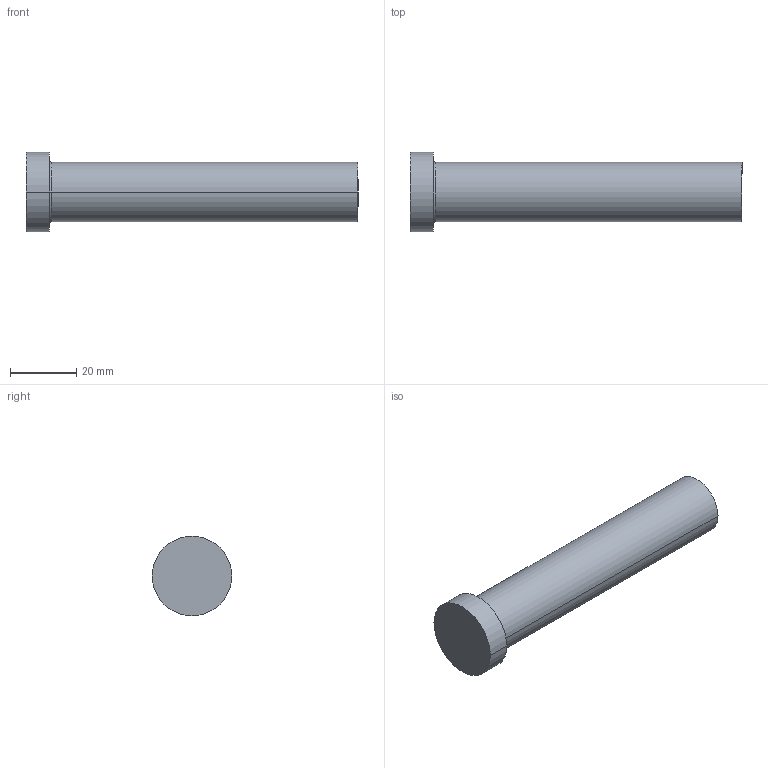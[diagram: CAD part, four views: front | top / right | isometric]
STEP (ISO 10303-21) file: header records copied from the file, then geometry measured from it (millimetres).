
FILE_DESCRIPTION (( 'STEP AP214' ), '1' );
FILE_NAME ('A-18x100.STEP', '2020-05-29T16:21:24', ( 'August' ), ( '' ), 'SwSTEP 2.0', 'SolidWorks 2018', '' );
FILE_SCHEMA (( 'AUTOMOTIVE_DESIGN' ));
Length unit declared in the file: millimetre
Products named in the file (1): A-18x100
Bounding box: 100 x 24 x 24 mm (x, y, z)
Volume: 26840.3 mm3; surface area: 6672.5 mm2
Topology: 1 solids, 1 shells, 9 faces, 16 edges, 10 vertices
Faces by surface type: cylinder 4, plane 3, torus 2
Entity records: 260 total; most frequent: DIRECTION 48, CARTESIAN_POINT 36, ORIENTED_EDGE 32, AXIS2_PLACEMENT_3D 22, EDGE_CURVE 16, CIRCLE 12, EDGE_LOOP 10, VERTEX_POINT 10
